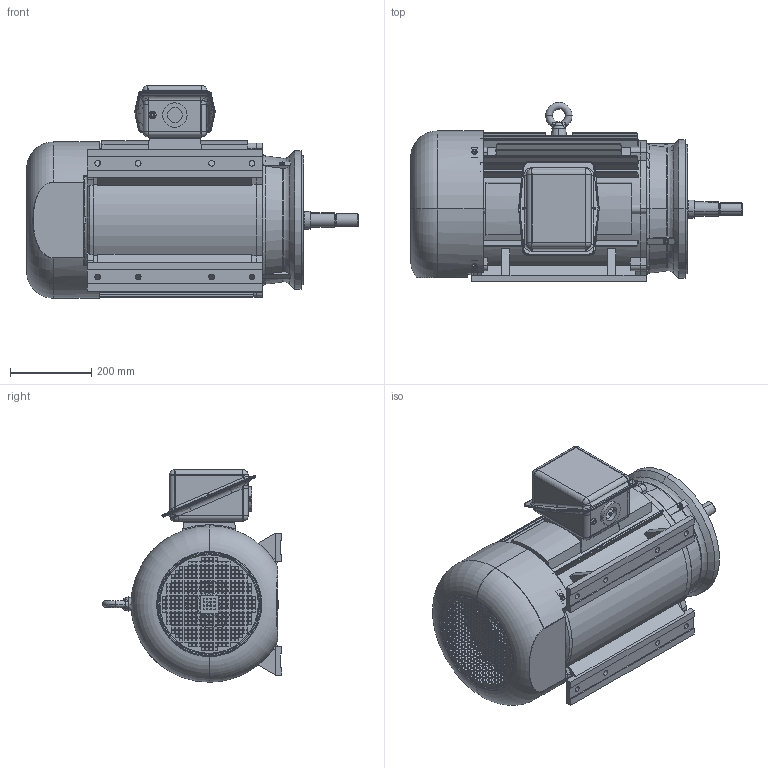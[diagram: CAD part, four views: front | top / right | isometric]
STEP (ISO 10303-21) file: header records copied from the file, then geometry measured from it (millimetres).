
FILE_DESCRIPTION (( 'STEP AP203' ), '1' );
FILE_NAME ('SS620565-286TC.STEP', '2018-10-18T02:40:58', ( '' ), ( '' ), 'SwSTEP 2.0', 'SolidWorks 2015', '' );
FILE_SCHEMA (( 'CONFIG_CONTROL_DESIGN' ));
Length unit declared in the file: millimetre
Products named in the file (3): 286TSTFCA6001; 蚾饜极1; SS620565-286TC
Assembly tree (2 placements, depth 2):
  SS620565-286TC
    286TSTFCA6001
    蚾饜极1
Bounding box: 815.39 x 439.84 x 521.97 mm (x, y, z)
Volume: 15746889.3 mm3; surface area: 3361507.4 mm2
Topology: 11 solids, 11 shells, 2846 faces, 8023 edges, 5257 vertices
Faces by surface type: plane 1884, cylinder 632, torus 153, cone 121, bspline 46, sphere 10
Entity records: 100775 total; most frequent: CARTESIAN_POINT 25717, ORIENTED_EDGE 15998, DIRECTION 14309, EDGE_CURVE 7999, LINE 5767, VECTOR 5767, VERTEX_POINT 5257, AXIS2_PLACEMENT_3D 4271
